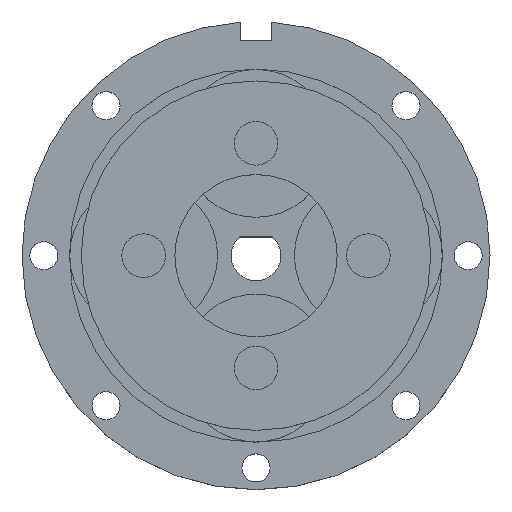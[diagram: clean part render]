
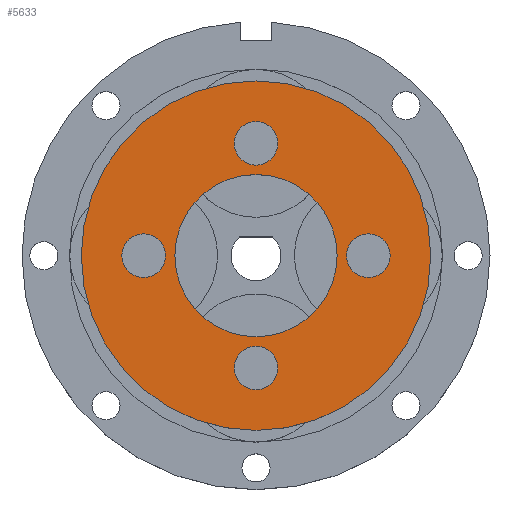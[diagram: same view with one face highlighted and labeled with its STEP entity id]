
A CAD part, top view. The second image highlights one B-rep face of the part: STEP entity #5633.
In plain terms, the highlighted planar face has unit normal (0, 0, 1).
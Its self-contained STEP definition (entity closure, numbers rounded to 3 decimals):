
#26 = FACE_BOUND ( 'NONE', #899, .T. ) ;
#99 = DIRECTION ( 'NONE',  ( 0., 0., 1. ) ) ;
#161 = EDGE_CURVE ( 'NONE', #7975, #671, #3822, .T. ) ;
#248 = DIRECTION ( 'NONE',  ( 1., 0., 0. ) ) ;
#299 = CARTESIAN_POINT ( 'NONE',  ( 0., 18., 8.35 ) ) ;
#314 = DIRECTION ( 'NONE',  ( 0., 0., 1. ) ) ;
#335 = AXIS2_PLACEMENT_3D ( 'NONE', #8427, #5605, #4402 ) ;
#344 = CARTESIAN_POINT ( 'NONE',  ( 18., 3.5, 8.35 ) ) ;
#374 = CARTESIAN_POINT ( 'NONE',  ( 0., 18., 8.35 ) ) ;
#377 = ORIENTED_EDGE ( 'NONE', *, *, #161, .F. ) ;
#611 = DIRECTION ( 'NONE',  ( 0., 0., 1. ) ) ;
#671 = VERTEX_POINT ( 'NONE', #4046 ) ;
#820 = CARTESIAN_POINT ( 'NONE',  ( -28., 0., 8.35 ) ) ;
#841 = CIRCLE ( 'NONE', #5439, 3.5 ) ;
#851 = AXIS2_PLACEMENT_3D ( 'NONE', #2342, #314, #7183 ) ;
#878 = VERTEX_POINT ( 'NONE', #344 ) ;
#899 = EDGE_LOOP ( 'NONE', ( #3318, #4042 ) ) ;
#919 = DIRECTION ( 'NONE',  ( 0., 0., 1. ) ) ;
#960 = DIRECTION ( 'NONE',  ( -1., 0., 0. ) ) ;
#1035 = DIRECTION ( 'NONE',  ( 1., 0., 0. ) ) ;
#1160 = DIRECTION ( 'NONE',  ( 0., 0., 1. ) ) ;
#1224 = AXIS2_PLACEMENT_3D ( 'NONE', #5944, #4028, #8135 ) ;
#1254 = CIRCLE ( 'NONE', #6135, 3.5 ) ;
#1287 = EDGE_CURVE ( 'NONE', #7513, #7974, #1254, .T. ) ;
#1299 = CARTESIAN_POINT ( 'NONE',  ( 3.5, -18., 8.35 ) ) ;
#1424 = EDGE_LOOP ( 'NONE', ( #1588, #2166 ) ) ;
#1577 = EDGE_LOOP ( 'NONE', ( #6640, #1727 ) ) ;
#1582 = DIRECTION ( 'NONE',  ( 0., -1., 0. ) ) ;
#1588 = ORIENTED_EDGE ( 'NONE', *, *, #2623, .F. ) ;
#1727 = ORIENTED_EDGE ( 'NONE', *, *, #5329, .F. ) ;
#1893 = ORIENTED_EDGE ( 'NONE', *, *, #6304, .T. ) ;
#1938 = AXIS2_PLACEMENT_3D ( 'NONE', #2636, #5548, #3359 ) ;
#1954 = FACE_BOUND ( 'NONE', #2007, .T. ) ;
#2004 = AXIS2_PLACEMENT_3D ( 'NONE', #2515, #1160, #6680 ) ;
#2007 = EDGE_LOOP ( 'NONE', ( #6598, #2898 ) ) ;
#2166 = ORIENTED_EDGE ( 'NONE', *, *, #1287, .F. ) ;
#2326 = CARTESIAN_POINT ( 'NONE',  ( -18., 0., 8.35 ) ) ;
#2342 = CARTESIAN_POINT ( 'NONE',  ( 0., -18., 8.35 ) ) ;
#2515 = CARTESIAN_POINT ( 'NONE',  ( 0., 0., 8.35 ) ) ;
#2537 = EDGE_CURVE ( 'NONE', #6965, #8178, #3463, .T. ) ;
#2623 = EDGE_CURVE ( 'NONE', #7974, #7513, #841, .T. ) ;
#2633 = CIRCLE ( 'NONE', #335, 3.5 ) ;
#2636 = CARTESIAN_POINT ( 'NONE',  ( 0., 0., 8.35 ) ) ;
#2772 = AXIS2_PLACEMENT_3D ( 'NONE', #4868, #99, #1582 ) ;
#2808 = CARTESIAN_POINT ( 'NONE',  ( 28., 0., 8.35 ) ) ;
#2816 = FACE_BOUND ( 'NONE', #1577, .T. ) ;
#2898 = ORIENTED_EDGE ( 'NONE', *, *, #5046, .F. ) ;
#2902 = VERTEX_POINT ( 'NONE', #820 ) ;
#2940 = CARTESIAN_POINT ( 'NONE',  ( -18., 3.5, 8.35 ) ) ;
#3046 = DIRECTION ( 'NONE',  ( 0., 0., 1. ) ) ;
#3060 = AXIS2_PLACEMENT_3D ( 'NONE', #5759, #8658, #7978 ) ;
#3141 = CARTESIAN_POINT ( 'NONE',  ( -13., 0., 8.35 ) ) ;
#3161 = CARTESIAN_POINT ( 'NONE',  ( 0., 0., 8.35 ) ) ;
#3315 = FACE_BOUND ( 'NONE', #1424, .T. ) ;
#3318 = ORIENTED_EDGE ( 'NONE', *, *, #8672, .F. ) ;
#3359 = DIRECTION ( 'NONE',  ( 1., 0., 0. ) ) ;
#3463 = CIRCLE ( 'NONE', #8589, 3.5 ) ;
#3495 = FACE_BOUND ( 'NONE', #5611, .T. ) ;
#3677 = AXIS2_PLACEMENT_3D ( 'NONE', #6357, #919, #960 ) ;
#3720 = DIRECTION ( 'NONE',  ( 0., 0., 1. ) ) ;
#3722 = ORIENTED_EDGE ( 'NONE', *, *, #8880, .T. ) ;
#3822 = CIRCLE ( 'NONE', #1224, 13. ) ;
#3903 = DIRECTION ( 'NONE',  ( 0., 1., 0. ) ) ;
#3978 = AXIS2_PLACEMENT_3D ( 'NONE', #3161, #6558, #1035 ) ;
#4028 = DIRECTION ( 'NONE',  ( 0., 0., 1. ) ) ;
#4042 = ORIENTED_EDGE ( 'NONE', *, *, #5818, .F. ) ;
#4046 = CARTESIAN_POINT ( 'NONE',  ( 13., 0., 8.35 ) ) ;
#4050 = EDGE_CURVE ( 'NONE', #671, #7975, #4489, .T. ) ;
#4246 = CARTESIAN_POINT ( 'NONE',  ( 3.5, 18., 8.35 ) ) ;
#4402 = DIRECTION ( 'NONE',  ( 0., -1., 0. ) ) ;
#4489 = CIRCLE ( 'NONE', #7763, 13. ) ;
#4660 = VERTEX_POINT ( 'NONE', #6568 ) ;
#4704 = EDGE_LOOP ( 'NONE', ( #3722, #1893 ) ) ;
#4710 = FACE_OUTER_BOUND ( 'NONE', #4704, .T. ) ;
#4868 = CARTESIAN_POINT ( 'NONE',  ( 18., 0., 8.35 ) ) ;
#4952 = EDGE_CURVE ( 'NONE', #878, #4660, #6772, .T. ) ;
#4969 = CARTESIAN_POINT ( 'NONE',  ( -18., -3.5, 8.35 ) ) ;
#5046 = EDGE_CURVE ( 'NONE', #8178, #6965, #5781, .T. ) ;
#5202 = CARTESIAN_POINT ( 'NONE',  ( -3.5, 18., 8.35 ) ) ;
#5237 = DIRECTION ( 'NONE',  ( 0., 0., 1. ) ) ;
#5243 = CIRCLE ( 'NONE', #3677, 3.5 ) ;
#5257 = CIRCLE ( 'NONE', #3978, 28. ) ;
#5329 = EDGE_CURVE ( 'NONE', #4660, #878, #2633, .T. ) ;
#5439 = AXIS2_PLACEMENT_3D ( 'NONE', #299, #3046, #5779 ) ;
#5548 = DIRECTION ( 'NONE',  ( 0., 0., 1. ) ) ;
#5605 = DIRECTION ( 'NONE',  ( 0., 0., 1. ) ) ;
#5611 = EDGE_LOOP ( 'NONE', ( #377, #8078 ) ) ;
#5633 = ADVANCED_FACE ( 'NONE', ( #1954, #26, #2816, #3315, #4710, #3495 ), #8785, .T. ) ;
#5759 = CARTESIAN_POINT ( 'NONE',  ( -18., 0., 8.35 ) ) ;
#5779 = DIRECTION ( 'NONE',  ( 1., 0., 0. ) ) ;
#5781 = CIRCLE ( 'NONE', #3060, 3.5 ) ;
#5818 = EDGE_CURVE ( 'NONE', #6457, #6443, #5243, .T. ) ;
#5944 = CARTESIAN_POINT ( 'NONE',  ( 0., 0., 8.35 ) ) ;
#6094 = DIRECTION ( 'NONE',  ( 1., 0., 0. ) ) ;
#6135 = AXIS2_PLACEMENT_3D ( 'NONE', #374, #3720, #248 ) ;
#6228 = CARTESIAN_POINT ( 'NONE',  ( 0., 0., 8.35 ) ) ;
#6304 = EDGE_CURVE ( 'NONE', #7269, #2902, #5257, .T. ) ;
#6357 = CARTESIAN_POINT ( 'NONE',  ( 0., -18., 8.35 ) ) ;
#6443 = VERTEX_POINT ( 'NONE', #1299 ) ;
#6457 = VERTEX_POINT ( 'NONE', #7499 ) ;
#6558 = DIRECTION ( 'NONE',  ( 0., 0., 1. ) ) ;
#6568 = CARTESIAN_POINT ( 'NONE',  ( 18., -3.5, 8.35 ) ) ;
#6598 = ORIENTED_EDGE ( 'NONE', *, *, #2537, .F. ) ;
#6640 = ORIENTED_EDGE ( 'NONE', *, *, #4952, .F. ) ;
#6680 = DIRECTION ( 'NONE',  ( 1., 0., 0. ) ) ;
#6727 = CIRCLE ( 'NONE', #851, 3.5 ) ;
#6772 = CIRCLE ( 'NONE', #2772, 3.5 ) ;
#6965 = VERTEX_POINT ( 'NONE', #4969 ) ;
#7183 = DIRECTION ( 'NONE',  ( -1., 0., 0. ) ) ;
#7269 = VERTEX_POINT ( 'NONE', #2808 ) ;
#7499 = CARTESIAN_POINT ( 'NONE',  ( -3.5, -18., 8.35 ) ) ;
#7513 = VERTEX_POINT ( 'NONE', #4246 ) ;
#7763 = AXIS2_PLACEMENT_3D ( 'NONE', #6228, #611, #6094 ) ;
#7974 = VERTEX_POINT ( 'NONE', #5202 ) ;
#7975 = VERTEX_POINT ( 'NONE', #3141 ) ;
#7978 = DIRECTION ( 'NONE',  ( 0., 1., 0. ) ) ;
#8078 = ORIENTED_EDGE ( 'NONE', *, *, #4050, .F. ) ;
#8135 = DIRECTION ( 'NONE',  ( 1., 0., 0. ) ) ;
#8178 = VERTEX_POINT ( 'NONE', #2940 ) ;
#8427 = CARTESIAN_POINT ( 'NONE',  ( 18., 0., 8.35 ) ) ;
#8589 = AXIS2_PLACEMENT_3D ( 'NONE', #2326, #5237, #3903 ) ;
#8602 = CIRCLE ( 'NONE', #2004, 28. ) ;
#8658 = DIRECTION ( 'NONE',  ( 0., 0., 1. ) ) ;
#8672 = EDGE_CURVE ( 'NONE', #6443, #6457, #6727, .T. ) ;
#8785 = PLANE ( 'NONE',  #1938 ) ;
#8880 = EDGE_CURVE ( 'NONE', #2902, #7269, #8602, .T. ) ;
